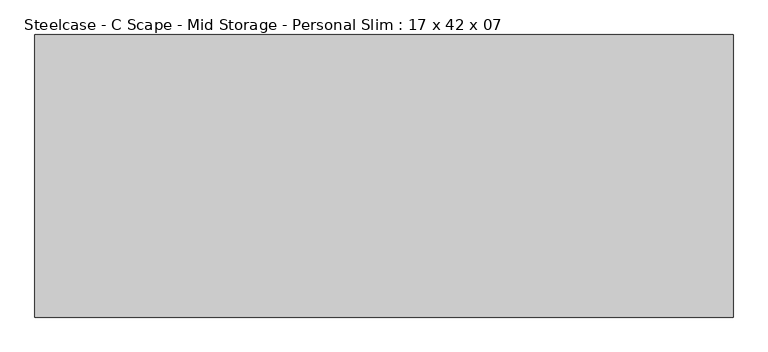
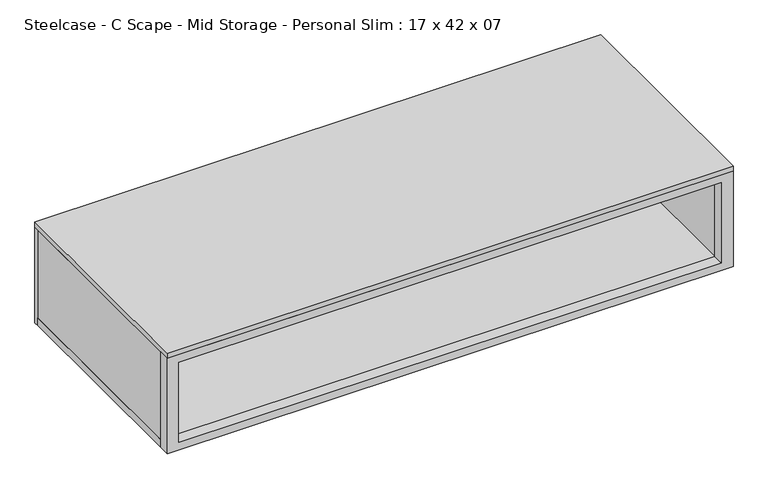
"""IFC4 building model written with IfcOpenShell, lengths in millimetres: furniture geometry, Steelcase - C Scape - Mid Storage - Personal Slim : 17 x 42 x 07."""

from ifc_helpers import new_model, si_unit, frame, origin, place, context, project, spatial, polyline, outline, extrude, source, transform, mapped, element, save


def steelcase_c_scape_mid_storage_personal_slim_17_x_42_x_07_c8c20947(model_context):
    return source(origin(), model_context, "Body", "SweptSolid", [
        extrude(outline(polyline([(1028.7, 1066.8), (1028.7, 0.0), (838.2, 0.0), (838.2, 1066.8), (1028.7, 1066.8)]), holes=[polyline([(853.4399855, 21.9711633), (1013.46, 21.9711633), (1013.46, 1044.702), (853.4399855, 1044.702), (853.4399855, 21.9711633)])]), frame((0.0, -215.9, 0.0), z_axis=(0.0, 1.0, 0.0), x_axis=(0.0, 0.0, 1.0)), (0.0, 0.0, 1.0), 21.4627892),
        extrude(outline(polyline([(1066.8, 206.3755809), (1066.8, -194.4372108), (0.0, -194.4372108), (0.0, 206.3755809), (1066.8, 206.3755809)])), frame((0.0, 0.0, 838.2), z_axis=(0.0, 0.0, 1.0), x_axis=(1.0, 0.0, 0.0)), (0.0, 0.0, 1.0), 15.2399855),
        extrude(outline(polyline([(1066.8, 215.9), (1066.8, -215.9), (0.0, -215.9), (0.0, 215.9), (1066.8, 215.9)])), frame((0.0, 0.0, 1028.7), z_axis=(0.0, 0.0, 1.0), x_axis=(1.0, 0.0, 0.0)), (0.0, 0.0, 1.0), 10.1599903),
        extrude(outline(polyline([(1066.8, 215.9), (1066.8, 206.3755809), (0.0, 206.3755809), (0.0, 215.9), (1066.8, 215.9)])), frame((0.0, 0.0, 838.2), z_axis=(0.0, 0.0, 1.0), x_axis=(1.0, 0.0, 0.0)), (0.0, 0.0, 1.0), 190.5),
        extrude(outline(polyline([(21.9711633, 206.3755809), (21.9711633, -194.4372108), (0.0, -194.4372108), (0.0, 206.3755809), (21.9711633, 206.3755809)])), frame((0.0, 0.0, 853.4399855), z_axis=(0.0, 0.0, 1.0), x_axis=(1.0, 0.0, 0.0)), (0.0, 0.0, 1.0), 175.2600145),
        extrude(outline(polyline([(1044.702, 206.3755809), (1066.8, 206.3755809), (1066.8, -194.4372108), (1044.702, -194.4372108), (1044.702, 206.3755809)])), frame((0.0, 0.0, 853.4399855), z_axis=(0.0, 0.0, 1.0), x_axis=(1.0, 0.0, 0.0)), (0.0, 0.0, 1.0), 175.2600145),
    ])


if __name__ == "__main__":
    model = new_model("IFC4")
    model_context = context("Model", 3, world=origin())
    ifc_project = project(units=[si_unit("LENGTHUNIT", "METRE", prefix="MILLI")], contexts=[model_context])
    site = spatial("IfcSite", under=ifc_project)
    building = spatial("IfcBuilding", under=site)
    placement = place(None, origin())
    steelcase_c_scape_mid_storage_personal_slim_17_x_42_x_07_shape = steelcase_c_scape_mid_storage_personal_slim_17_x_42_x_07_c8c20947(model_context)
    element("IfcFurniture", 1, ObjectType="Steelcase - C Scape - Mid Storage - Personal Slim : 17 x 42 x 07", at=placement, inside=building, context=model_context, shape_type="MappedRepresentation", body=[
        mapped(steelcase_c_scape_mid_storage_personal_slim_17_x_42_x_07_shape, transform((0.0, 0.0, 0.0), x_axis=(1.0, 0.0, 0.0), y_axis=(0.0, 1.0, 0.0), z_axis=(0.0, 0.0, 1.0))),
    ])
    save(model, "model.ifc")
